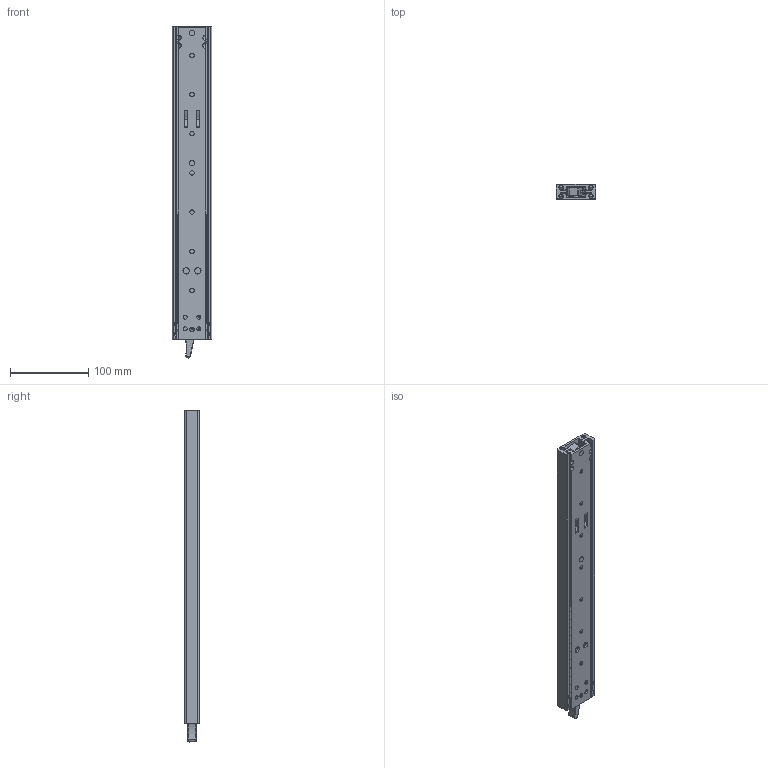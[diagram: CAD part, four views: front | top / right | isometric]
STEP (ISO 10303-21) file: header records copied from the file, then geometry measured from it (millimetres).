
FILE_DESCRIPTION (( 'STEP AP214' ), '1' );
FILE_NAME ('220-400-closed.STEP', '2022-03-25T10:36:49', ( '' ), ( '' ), 'SwSTEP 2.0', 'SolidWorks 2021', '' );
FILE_SCHEMA (( 'AUTOMOTIVE_DESIGN' ));
Length unit declared in the file: millimetre
Products named in the file (12): 301_000_008_Fitted.STEP; 61_12280_06_Beam Assembled - Stop Raises .STEP; 61_12278_08.STEP; 61_13331_Pin Fitted.STEP; 61_12719.STEP; 370_002_070.STEP; 61_12274.STEP; 61_12282.STEP; 61_12279_06.STEP; 61_12276.STEP; 400_000_004.STEP; 220-400-closed
Assembly tree (27 placements, depth 2):
  220-400-closed
    61_12279_06.STEP
    61_12280_06_Beam Assembled - Stop Raises .STEP  x2
    61_13331_Pin Fitted.STEP  x4
    61_12282.STEP
    301_000_008_Fitted.STEP  x2
    61_12274.STEP
    370_002_070.STEP
    61_12719.STEP  x2
    400_000_004.STEP  x8
    61_12278_08.STEP  x4
    61_12276.STEP
Bounding box: 50.7 x 19.75 x 423.69 mm (x, y, z)
Volume: 231655.9 mm3; surface area: 161494 mm2
Topology: 27 solids, 27 shells, 1281 faces, 3293 edges, 2044 vertices
Faces by surface type: cylinder 554, plane 283, sphere 225, torus 93, cone 80, bspline 46
Entity records: 28980 total; most frequent: CARTESIAN_POINT 8798, DIRECTION 4324, ORIENTED_EDGE 4066, EDGE_CURVE 2033, AXIS2_PLACEMENT_3D 1736, VERTEX_POINT 1255, CIRCLE 951, EDGE_LOOP 912
